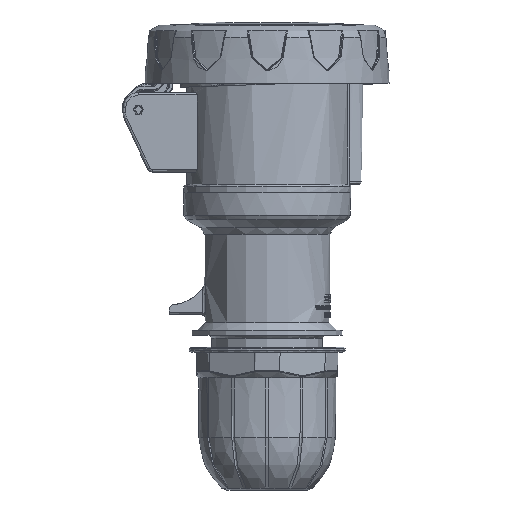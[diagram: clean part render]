
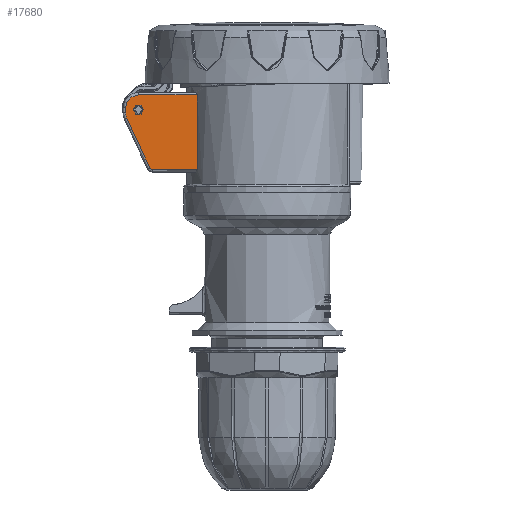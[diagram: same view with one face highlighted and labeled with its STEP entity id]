
A CAD part, left-side view. The second image highlights one B-rep face of the part: STEP entity #17680.
In plain terms, the highlighted planar face has unit normal (-1, 0, 0).
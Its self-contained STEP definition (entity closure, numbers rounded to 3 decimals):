
#2055=FACE_BOUND('',#28089,.T.);
#2056=FACE_BOUND('',#28090,.T.);
#6319=PLANE('',#87687);
#8824=LINE('',#148939,#13163);
#8858=LINE('',#149385,#13197);
#8860=LINE('',#149393,#13199);
#8865=LINE('',#149409,#13204);
#8866=LINE('',#149413,#13205);
#13163=VECTOR('',#100004,1.);
#13197=VECTOR('',#100130,1.);
#13199=VECTOR('',#100138,1.);
#13204=VECTOR('',#100155,1.);
#13205=VECTOR('',#100158,1.);
#17680=ADVANCED_FACE('',(#2055,#2056),#6319,.T.);
#28089=EDGE_LOOP('',(#45901,#45902,#45903,#45904,#45905,#45906,#45907,#45908));
#28090=EDGE_LOOP('',(#45909));
#45901=ORIENTED_EDGE('',*,*,#74101,.T.);
#45902=ORIENTED_EDGE('',*,*,#74108,.T.);
#45903=ORIENTED_EDGE('',*,*,#74109,.T.);
#45904=ORIENTED_EDGE('',*,*,#74110,.T.);
#45905=ORIENTED_EDGE('',*,*,#74111,.T.);
#45906=ORIENTED_EDGE('',*,*,#74112,.T.);
#45907=ORIENTED_EDGE('',*,*,#74097,.T.);
#45908=ORIENTED_EDGE('',*,*,#74015,.T.);
#45909=ORIENTED_EDGE('',*,*,#74113,.F.);
#64421=VERTEX_POINT('',#148938);
#64422=VERTEX_POINT('',#148940);
#64485=VERTEX_POINT('',#149386);
#64487=VERTEX_POINT('',#149392);
#64492=VERTEX_POINT('',#149408);
#64493=VERTEX_POINT('',#149410);
#64494=VERTEX_POINT('',#149412);
#64495=VERTEX_POINT('',#149414);
#64496=VERTEX_POINT('',#149417);
#74015=EDGE_CURVE('',#64422,#64421,#8824,.T.);
#74097=EDGE_CURVE('',#64485,#64422,#8858,.T.);
#74101=EDGE_CURVE('',#64421,#64487,#8860,.T.);
#74108=EDGE_CURVE('',#64487,#64492,#82893,.T.);
#74109=EDGE_CURVE('',#64492,#64493,#8865,.T.);
#74110=EDGE_CURVE('',#64493,#64494,#82894,.T.);
#74111=EDGE_CURVE('',#64494,#64495,#8866,.T.);
#74112=EDGE_CURVE('',#64495,#64485,#82895,.T.);
#74113=EDGE_CURVE('',#64496,#64496,#82896,.T.);
#82893=CIRCLE('',#87683,5.);
#82894=CIRCLE('',#87684,5.);
#82895=CIRCLE('',#87685,1.);
#82896=CIRCLE('',#87686,2.);
#87683=AXIS2_PLACEMENT_3D('',#149407,#100153,#100154);
#87684=AXIS2_PLACEMENT_3D('',#149411,#100156,#100157);
#87685=AXIS2_PLACEMENT_3D('',#149415,#100159,#100160);
#87686=AXIS2_PLACEMENT_3D('',#149416,#100161,#100162);
#87687=AXIS2_PLACEMENT_3D('',#149418,#100163,#100164);
#100004=DIRECTION('',(0.,0.,1.));
#100130=DIRECTION('',(0.,-1.,0.));
#100138=DIRECTION('',(0.,1.,0.));
#100153=DIRECTION('',(-1.,0.,0.));
#100154=DIRECTION('',(0.,0.,1.));
#100155=DIRECTION('',(0.,0.,-1.));
#100156=DIRECTION('',(-1.,0.,0.));
#100157=DIRECTION('',(0.,0.,1.));
#100158=DIRECTION('',(0.,-0.423,-0.906));
#100159=DIRECTION('',(-1.,0.,0.));
#100160=DIRECTION('',(0.,0.,1.));
#100161=DIRECTION('',(-1.,0.,0.));
#100162=DIRECTION('',(0.,1.,0.));
#100163=DIRECTION('',(-1.,0.,0.));
#100164=DIRECTION('',(0.,-1.,0.));
#148938=CARTESIAN_POINT('',(-16.001,-64.623,7.431));
#148939=CARTESIAN_POINT('',(-16.001,-64.623,-21.569));
#148940=CARTESIAN_POINT('',(-16.001,-64.623,-21.569));
#149385=CARTESIAN_POINT('',(-16.001,-47.136,-21.569));
#149386=CARTESIAN_POINT('',(-16.001,-47.136,-21.569));
#149392=CARTESIAN_POINT('',(-16.001,-41.757,7.431));
#149393=CARTESIAN_POINT('',(-16.001,-64.623,7.431));
#149407=CARTESIAN_POINT('',(-16.001,-41.757,2.431));
#149408=CARTESIAN_POINT('',(-16.001,-36.757,2.431));
#149409=CARTESIAN_POINT('',(-16.001,-36.757,11.531));
#149410=CARTESIAN_POINT('',(-16.001,-36.757,0.431));
#149411=CARTESIAN_POINT('',(-16.001,-41.757,0.431));
#149412=CARTESIAN_POINT('',(-16.001,-37.226,-1.682));
#149413=CARTESIAN_POINT('',(-16.001,-37.226,-1.682));
#149414=CARTESIAN_POINT('',(-16.001,-46.23,-20.992));
#149415=CARTESIAN_POINT('',(-16.001,-47.136,-20.569));
#149416=CARTESIAN_POINT('',(-16.001,-41.757,1.681));
#149417=CARTESIAN_POINT('',(-16.001,-39.757,1.681));
#149418=CARTESIAN_POINT('',(-16.001,-97.357,11.531));
